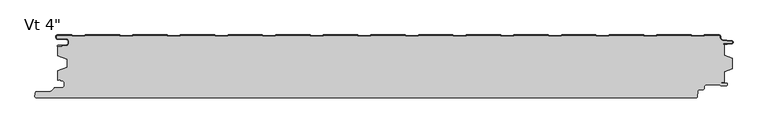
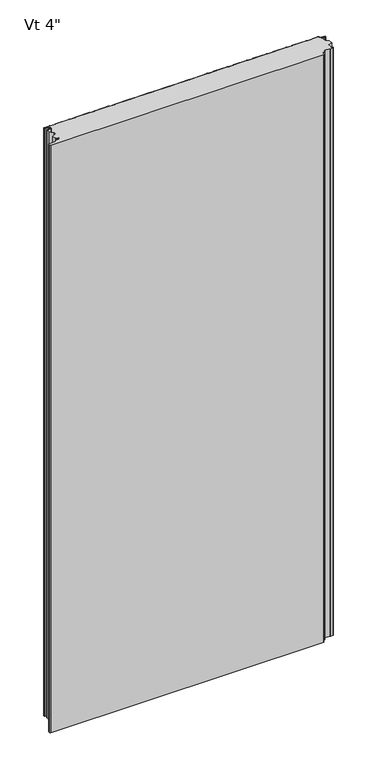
"""IFC4 building model written with IfcOpenShell, lengths in millimetres: plate geometry."""

from ifc_helpers import new_model, si_unit, point, frame, frame_2d, origin, origin_with_axes, place, context, project, spatial, polyline, circle_curve, trimmed, segment, composite_curve, outline, extrude, source, transform, mapped, element, save
from ifc_brep_helpers import plane_surface, cylinder_surface, revolved_surface, advanced_brep


def plate_48e6c5c1(model_context):
    return source(origin(), model_context, "Body", "SolidModel", [
        advanced_brep(
        [(-526.0754696, -73.5045169, 2400.0), (-522.7254697, -76.8545168, 2400.0), (-522.7254697, -81.2545166, 2400.0), (-526.0754696, -84.6045165, 2400.0), (-537.8863818, -84.6045165, 2400.0), (-539.0884633, -85.102435, 2400.0), (-543.8290223, -89.8429939, 2400.0), (-545.6674999, -90.6045163, 2400.0), (-566.6742572, -90.6045163, 2400.0), (-569.3639643, -93.0689835, 2400.0), (-569.7796495, -97.8159721, 2400.0), (-567.22876, -100.6, 2400.0), (487.6519047, -100.6, 2400.0), (489.5344274, -98.8750281, 2400.0), (490.2810225, -90.3438082, 2400.0), (490.8950589, -88.7647769, 2400.0), (493.2848524, -87.5909787, 2400.0), (498.6449659, -87.5909787, 2400.0), (500.4449659, -85.7909787, 2400.0), (500.4449659, -83.500418, 2400.0), (504.4449659, -79.500418, 2400.0), (523.9824407, -79.500418, 2400.0), (525.9423153, -80.3919416, 2400.0), (526.8881383, -81.4769402, 2400.0), (535.7430969, -81.1263694, 2400.0), (535.7400007, -76.9257796, 2400.0), (527.7295248, -76.4370324, 2400.0), (527.790425, -75.4388885, 2400.0), (532.327531, -75.7157133, 2400.0), (532.327531, -58.8948412, 2400.0), (545.5274637, -53.7615374, 2400.0), (545.5274637, -37.6469837, 2400.0), (532.327531, -32.5136753, 2400.0), (532.327531, -15.2947081, 2400.0), (530.7283, -15.4069152, 2400.0), (530.6583089, -14.4093676, 2400.0), (544.1268009, -13.4643757, 2400.0), (544.183689, -10.0073134, 2400.0), (529.6309436, -8.4976379, 2400.0), (525.6580508, -4.0912842, 2400.0), (525.6580508, -2.3999791, 2400.0), (524.2580508, -0.9999791, 2400.0), (501.3726136, -0.9999791, 2400.0), (500.172362, -2.2002307, 2400.0), (480.5369023, -2.2002307, 2400.0), (479.3366715, -1.0, 2400.0), (425.1891835, -1.0, 2400.0), (423.9889528, -2.2002307, 2400.0), (404.353493, -2.2002307, 2400.0), (403.1532623, -1.0, 2400.0), (349.0057743, -1.0, 2400.0), (347.8055436, -2.2002307, 2400.0), (328.1700838, -2.2002307, 2400.0), (326.9698531, -1.0, 2400.0), (272.8223651, -1.0, 2400.0), (271.6221343, -2.2002307, 2400.0), (251.9866746, -2.2002307, 2400.0), (250.7864439, -1.0, 2400.0), (196.6225175, -1.0, 2400.0), (195.4222867, -2.2002307, 2400.0), (175.786827, -2.2002307, 2400.0), (174.5865963, -1.0, 2400.0), (120.4391082, -1.0, 2400.0), (119.2388775, -2.2002307, 2400.0), (99.6034178, -2.2002307, 2400.0), (98.403187, -1.0, 2400.0), (44.255699, -1.0, 2400.0), (43.0554683, -2.2002307, 2400.0), (23.4200086, -2.2002307, 2400.0), (22.2197778, -1.0, 2400.0), (-31.9441486, -1.0, 2400.0), (-33.1443793, -2.2002307, 2400.0), (-52.779839, -2.2002307, 2400.0), (-53.9800698, -1.0, 2400.0), (-108.1275578, -1.0, 2400.0), (-109.3277885, -2.2002307, 2400.0), (-128.9632483, -2.2002307, 2400.0), (-130.163479, -1.0, 2400.0), (-184.310967, -1.0, 2400.0), (-185.5111978, -2.2002307, 2400.0), (-205.1466575, -2.2002307, 2400.0), (-206.3468882, -1.0, 2400.0), (-260.5108146, -1.0, 2400.0), (-261.7110454, -2.2002307, 2400.0), (-281.3465051, -2.2002307, 2400.0), (-282.5467358, -1.0, 2400.0), (-336.6942238, -1.0, 2400.0), (-337.8944546, -2.2002307, 2400.0), (-357.5299143, -2.2002307, 2400.0), (-358.730145, -1.0, 2400.0), (-412.8776331, -1.0, 2400.0), (-414.0778638, -2.2002307, 2400.0), (-433.7133235, -2.2002307, 2400.0), (-434.9135543, -1.0, 2400.0), (-489.0774807, -1.0, 2400.0), (-490.2777114, -2.2002307, 2400.0), (-509.9131711, -2.2002307, 2400.0), (-511.1133915, -1.0000103, 2400.0), (-533.7839771, -1.0000103, 2400.0), (-535.248695, -2.3984828, 2400.0), (-535.248695, -3.9515996, 2400.0), (-533.0386397, -6.1616549, 2400.0), (-519.5094117, -6.1616549, 2400.0), (-515.7894255, -9.881641, 2400.0), (-515.7894255, -13.5282389, 2400.0), (-519.5094219, -17.2482353, 2400.0), (-525.8545399, -17.2482353, 2400.0), (-525.6919341, -18.1704184, 2400.0), (-531.9454632, -19.2730843, 2400.0), (-533.4000002, -18.7244571, 2400.0), (-533.4000002, -33.5050578, 2400.0), (-518.4020469, -39.1301019, 2400.0), (-518.3882813, -51.7686066, 2400.0), (-533.4000002, -57.3928342, 2400.0), (-533.4000002, -72.4748213, 2400.0), (-532.5329867, -72.1060333, 2400.0), (-528.774586, -72.1060333, 2400.0), (-528.774586, -73.5045169, 2400.0), (-526.0754696, -73.5045169, 0.0), (-528.774586, -73.5045169, 0.0), (-528.774586, -72.1060333, 0.0), (-532.5329867, -72.1060333, 0.0), (-533.4000002, -72.4748213, 0.0), (-533.4000002, -57.3928342, 0.0), (-518.4020469, -51.7686066, 0.0), (-518.3882813, -39.1301019, 0.0), (-533.4000002, -33.5050578, 0.0), (-533.4000002, -18.7244571, 0.0), (-531.9454632, -19.2730843, 0.0), (-525.6919341, -18.1704184, 0.0), (-525.8545399, -17.2482353, 0.0), (-519.5094219, -17.2482353, 0.0), (-515.7894255, -13.5282389, 0.0), (-515.7894255, -9.881641, 0.0), (-519.5094117, -6.1616549, 0.0), (-533.0386397, -6.1616549, 0.0), (-535.2486951, -3.9515996, 0.0), (-535.248695, -2.3984828, 0.0), (-533.7839771, -1.0000103, 0.0), (-511.1133915, -1.0000103, 0.0), (-509.9131711, -2.2002307, 0.0), (-490.2777114, -2.2002307, 0.0), (-489.0774807, -1.0, 0.0), (-434.9135543, -1.0, 0.0), (-433.7133235, -2.2002307, 0.0), (-414.0778638, -2.2002307, 0.0), (-412.8776331, -1.0, 0.0), (-358.730145, -1.0, 0.0), (-357.5299143, -2.2002307, 0.0), (-337.8944546, -2.2002307, 0.0), (-336.6942238, -1.0, 0.0), (-282.5467358, -1.0, 0.0), (-281.3465051, -2.2002307, 0.0), (-261.7110454, -2.2002307, 0.0), (-260.5108146, -1.0, 0.0), (-206.3468882, -1.0, 0.0), (-205.1466575, -2.2002307, 0.0), (-185.5111978, -2.2002307, 0.0), (-184.310967, -1.0, 0.0), (-130.163479, -1.0, 0.0), (-128.9632483, -2.2002307, 0.0), (-109.3277885, -2.2002307, 0.0), (-108.1275578, -1.0, 0.0), (-53.9800698, -1.0, 0.0), (-52.779839, -2.2002307, 0.0), (-33.1443793, -2.2002307, 0.0), (-31.9441486, -1.0, 0.0), (22.2197778, -1.0, 0.0), (23.4200086, -2.2002307, 0.0), (43.0554683, -2.2002307, 0.0), (44.255699, -1.0, 0.0), (98.403187, -1.0, 0.0), (99.6034178, -2.2002307, 0.0), (119.2388775, -2.2002307, 0.0), (120.4391082, -1.0, 0.0), (174.5865963, -1.0, 0.0), (175.786827, -2.2002307, 0.0), (195.4222867, -2.2002307, 0.0), (196.6225175, -1.0, 0.0), (250.7864439, -1.0, 0.0), (251.9866746, -2.2002307, 0.0), (271.6221343, -2.2002307, 0.0), (272.8223651, -1.0, 0.0), (326.9698531, -1.0, 0.0), (328.1700838, -2.2002307, 0.0), (347.8055436, -2.2002307, 0.0), (349.0057743, -1.0, 0.0), (403.1532623, -1.0, 0.0), (404.353493, -2.2002307, 0.0), (423.9889528, -2.2002307, 0.0), (425.1891835, -1.0, 0.0), (479.3366715, -1.0, 0.0), (480.5369023, -2.2002307, 0.0), (500.172362, -2.2002307, 0.0), (501.3726136, -0.9999791, 0.0), (524.2580508, -0.9999791, 0.0), (525.6580508, -2.3999791, 0.0), (525.6580508, -4.0912842, 0.0), (529.6309436, -8.4976379, 0.0), (544.183689, -10.0073134, 0.0), (544.1268009, -13.4643757, 0.0), (530.6583089, -14.4093676, 0.0), (530.7283, -15.4069152, 0.0), (532.327531, -15.2947081, 0.0), (532.327531, -32.5136753, 0.0), (545.5274637, -37.6469837, 0.0), (545.5274637, -53.7615374, 0.0), (532.327531, -58.8948412, 0.0), (532.327531, -75.7157133, 0.0), (527.790425, -75.4388885, 0.0), (527.7295248, -76.4370324, 0.0), (535.7400007, -76.9257796, 0.0), (535.7430969, -81.1263694, 0.0), (526.8881383, -81.4769402, 0.0), (525.9423153, -80.3919416, 0.0), (523.9824407, -79.500418, 0.0), (504.4449659, -79.500418, 0.0), (500.4449659, -83.500418, 0.0), (500.4449659, -85.7909787, 0.0), (498.6449659, -87.5909787, 0.0), (493.2848524, -87.5909787, 0.0), (490.8950589, -88.7647769, 0.0), (490.2810225, -90.3438082, 0.0), (489.5344274, -98.8750281, 0.0), (487.6519047, -100.6, 0.0), (-567.22876, -100.6, 0.0), (-569.7796495, -97.8159721, 0.0), (-569.3639643, -93.0689835, 0.0), (-566.6742572, -90.6045163, 0.0), (-545.6674999, -90.6045163, 0.0), (-543.8290223, -89.8429939, 0.0), (-539.0884633, -85.102435, 0.0), (-537.8863818, -84.6045165, 0.0), (-526.0754696, -84.6045165, 0.0), (-522.7254697, -81.2545166, 0.0), (-522.7254697, -76.8545168, 0.0)],
        [
            (0, 1, circle_curve(frame((-526.0754696, -76.8545168, 2400.0), z_axis=(0.0, 0.0, -1.0), x_axis=(-1.0, 0.0, 0.0)), 3.3499999)),
            (1, 2),
            (2, 3, circle_curve(frame((-526.0754696, -81.2545166, 2400.0), z_axis=(0.0, 0.0, -1.0), x_axis=(-1.0, 0.0, 0.0)), 3.3499999)),
            (3, 4),
            (4, 5, circle_curve(frame((-537.8863818, -86.3045165, 2400.0), z_axis=(0.0, 0.0, 1.0), x_axis=(-1.0, 0.0, 0.0)), 1.7)),
            (5, 6),
            (6, 7, circle_curve(frame((-545.6674999, -88.0045163, 2400.0), z_axis=(0.0, 0.0, -1.0), x_axis=(-1.0, 0.0, 0.0)), 2.6)),
            (7, 8),
            (8, 9, circle_curve(frame((-566.6742572, -93.3045163, 2400.0), z_axis=(0.0, 0.0, 1.0), x_axis=(-1.0, 0.0, 0.0)), 2.7)),
            (9, 10),
            (10, 11, circle_curve(frame((-567.22876, -98.0393488, 2400.0), z_axis=(0.0, 0.0, 1.0), x_axis=(-1.0, 0.0, 0.0)), 2.5606512)),
            (11, 12),
            (12, 13, circle_curve(frame((487.6519047, -98.7102824, 2400.0), z_axis=(0.0, 0.0, 1.0), x_axis=(-1.0, 0.0, 0.0)), 1.8897176)),
            (13, 14),
            (14, 15, circle_curve(frame((493.2970771, -90.6077531, 2400.0), z_axis=(0.0, 0.0, -1.0), x_axis=(-1.0, 0.0, 0.0)), 3.027582)),
            (15, 16, circle_curve(frame((493.2751942, -90.5909631, 2400.0), z_axis=(0.0, 0.0, -1.0), x_axis=(-1.0, 0.0, 0.0)), 3.0)),
            (16, 17),
            (17, 18, circle_curve(frame((498.6449659, -85.7909787, 2400.0), z_axis=(0.0, 0.0, 1.0), x_axis=(-1.0, 0.0, 0.0)), 1.8)),
            (18, 19),
            (19, 20, circle_curve(frame((504.4449659, -83.500418, 2400.0), z_axis=(0.0, 0.0, -1.0), x_axis=(-1.0, 0.0, 0.0)), 4.0)),
            (20, 21),
            (21, 22, circle_curve(frame((523.9824407, -82.100418, 2400.0), z_axis=(0.0, 0.0, -1.0), x_axis=(-1.0, 0.0, 0.0)), 2.6)),
            (22, 23),
            (23, 24),
            (24, 25, circle_curve(frame((535.6599479, -79.0261346, 2400.0), z_axis=(0.0, 0.0, 1.0), x_axis=(-1.0, 0.0, 0.0)), 2.10188)),
            (25, 26),
            (26, 27),
            (27, 28),
            (28, 29),
            (29, 30),
            (30, 31),
            (31, 32),
            (32, 33),
            (33, 34),
            (34, 35),
            (35, 36),
            (36, 37, circle_curve(frame((544.0116441, -11.7334815, 2400.0), z_axis=(0.0, 0.0, 1.0), x_axis=(-1.0, 0.0, 0.0)), 1.7347206)),
            (37, 38),
            (38, 39, circle_curve(frame((530.0880508, -4.0912842, 2400.0), z_axis=(0.0, 0.0, -1.0), x_axis=(-1.0, 0.0, 0.0)), 4.43)),
            (39, 40),
            (40, 41, circle_curve(frame((524.2580508, -2.3999791, 2400.0), z_axis=(0.0, 0.0, 1.0), x_axis=(-1.0, 0.0, 0.0)), 1.4)),
            (41, 42),
            (42, 43),
            (43, 44),
            (44, 45),
            (45, 46),
            (46, 47),
            (47, 48),
            (48, 49),
            (49, 50),
            (50, 51),
            (51, 52),
            (52, 53),
            (53, 54),
            (54, 55),
            (55, 56),
            (56, 57),
            (57, 58),
            (58, 59),
            (59, 60),
            (60, 61),
            (61, 62),
            (62, 63),
            (63, 64),
            (64, 65),
            (65, 66),
            (66, 67),
            (67, 68),
            (68, 69),
            (69, 70),
            (70, 71),
            (71, 72),
            (72, 73),
            (73, 74),
            (74, 75),
            (75, 76),
            (76, 77),
            (77, 78),
            (78, 79),
            (79, 80),
            (80, 81),
            (81, 82),
            (82, 83),
            (83, 84),
            (84, 85),
            (85, 86),
            (86, 87),
            (87, 88),
            (88, 89),
            (89, 90),
            (90, 91),
            (91, 92),
            (92, 93),
            (93, 94),
            (94, 95),
            (95, 96),
            (96, 97),
            (97, 98),
            (98, 99, circle_curve(frame((-533.8487245, -2.3984828, 2400.0), z_axis=(0.0, 0.0, 1.0), x_axis=(-1.0, 0.0, 0.0)), 1.3999705)),
            (99, 100),
            (100, 101, circle_curve(frame((-533.0386397, -3.9515996, 2400.0), z_axis=(0.0, 0.0, 1.0), x_axis=(-1.0, 0.0, 0.0)), 2.2100553)),
            (101, 102),
            (102, 103, circle_curve(frame((-519.5094117, -9.881641, 2400.0), z_axis=(0.0, 0.0, -1.0), x_axis=(-1.0, 0.0, 0.0)), 3.7199861)),
            (103, 104),
            (104, 105, circle_curve(frame((-519.5094219, -13.5282389, 2400.0), z_axis=(0.0, 0.0, -1.0), x_axis=(-1.0, 0.0, 0.0)), 3.7199964)),
            (105, 106),
            (106, 107),
            (107, 108),
            (108, 109, circle_curve(frame((-532.2101032, -17.7722363, 2400.0), z_axis=(0.0, 0.0, -1.0), x_axis=(-1.0, 0.0, 0.0)), 1.524001)),
            (109, 110),
            (110, 111),
            (111, 112),
            (112, 113),
            (113, 114),
            (114, 115, circle_curve(frame((-532.5345014, -73.3060323, 2400.0), z_axis=(0.0, 0.0, -1.0), x_axis=(-1.0, 0.0, 0.0)), 1.2)),
            (115, 116),
            (116, 117),
            (117, 0),
            (118, 119),
            (119, 120),
            (120, 121),
            (121, 122, circle_curve(frame((-532.5345014, -73.3060323, 0.0), z_axis=(0.0, 0.0, 1.0), x_axis=(-1.0, 0.0, 0.0)), 1.2)),
            (122, 123),
            (123, 124),
            (124, 125),
            (125, 126),
            (126, 127),
            (127, 128, circle_curve(frame((-532.2101032, -17.7722363, 0.0), z_axis=(0.0, 0.0, 1.0), x_axis=(-1.0, 0.0, 0.0)), 1.524001)),
            (128, 129),
            (129, 130),
            (130, 131),
            (131, 132, circle_curve(frame((-519.5094219, -13.5282389, 0.0), z_axis=(0.0, 0.0, 1.0), x_axis=(-1.0, 0.0, 0.0)), 3.7199964)),
            (132, 133),
            (133, 134, circle_curve(frame((-519.5094117, -9.881641, 0.0), z_axis=(0.0, 0.0, 1.0), x_axis=(-1.0, 0.0, 0.0)), 3.7199861)),
            (134, 135),
            (135, 136, circle_curve(frame((-533.0386397, -3.9515996, 0.0), z_axis=(0.0, 0.0, -1.0), x_axis=(-1.0, 0.0, 0.0)), 2.2100553)),
            (136, 137),
            (137, 138, circle_curve(frame((-533.8487245, -2.3984828, 0.0), z_axis=(0.0, 0.0, -1.0), x_axis=(-1.0, 0.0, 0.0)), 1.3999705)),
            (138, 139),
            (139, 140),
            (140, 141),
            (141, 142),
            (142, 143),
            (143, 144),
            (144, 145),
            (145, 146),
            (146, 147),
            (147, 148),
            (148, 149),
            (149, 150),
            (150, 151),
            (151, 152),
            (152, 153),
            (153, 154),
            (154, 155),
            (155, 156),
            (156, 157),
            (157, 158),
            (158, 159),
            (159, 160),
            (160, 161),
            (161, 162),
            (162, 163),
            (163, 164),
            (164, 165),
            (165, 166),
            (166, 167),
            (167, 168),
            (168, 169),
            (169, 170),
            (170, 171),
            (171, 172),
            (172, 173),
            (173, 174),
            (174, 175),
            (175, 176),
            (176, 177),
            (177, 178),
            (178, 179),
            (179, 180),
            (180, 181),
            (181, 182),
            (182, 183),
            (183, 184),
            (184, 185),
            (185, 186),
            (186, 187),
            (187, 188),
            (188, 189),
            (189, 190),
            (190, 191),
            (191, 192),
            (192, 193),
            (193, 194),
            (194, 195),
            (195, 196, circle_curve(frame((524.2580508, -2.3999791, 0.0), z_axis=(0.0, 0.0, -1.0), x_axis=(-1.0, 0.0, 0.0)), 1.4)),
            (196, 197),
            (197, 198, circle_curve(frame((530.0880508, -4.0912842, 0.0), z_axis=(0.0, 0.0, 1.0), x_axis=(-1.0, 0.0, 0.0)), 4.43)),
            (198, 199),
            (199, 200, circle_curve(frame((544.0116441, -11.7334815, 0.0), z_axis=(0.0, 0.0, -1.0), x_axis=(-1.0, 0.0, 0.0)), 1.7347206)),
            (200, 201),
            (201, 202),
            (202, 203),
            (203, 204),
            (204, 205),
            (205, 206),
            (206, 207),
            (207, 208),
            (208, 209),
            (209, 210),
            (210, 211),
            (211, 212, circle_curve(frame((535.6599479, -79.0261346, 0.0), z_axis=(0.0, 0.0, -1.0), x_axis=(-1.0, 0.0, 0.0)), 2.10188)),
            (212, 213),
            (213, 214),
            (214, 215, circle_curve(frame((523.9824407, -82.100418, 0.0), z_axis=(0.0, 0.0, 1.0), x_axis=(-1.0, 0.0, 0.0)), 2.6)),
            (215, 216),
            (216, 217, circle_curve(frame((504.4449659, -83.500418, 0.0), z_axis=(0.0, 0.0, 1.0), x_axis=(-1.0, 0.0, 0.0)), 4.0)),
            (217, 218),
            (218, 219, circle_curve(frame((498.6449659, -85.7909787, 0.0), z_axis=(0.0, 0.0, -1.0), x_axis=(-1.0, 0.0, 0.0)), 1.8)),
            (219, 220),
            (220, 221, circle_curve(frame((493.2751942, -90.5909631, 0.0), z_axis=(0.0, 0.0, 1.0), x_axis=(-1.0, 0.0, 0.0)), 3.0)),
            (221, 222, circle_curve(frame((493.2970771, -90.6077531, 0.0), z_axis=(0.0, 0.0, 1.0), x_axis=(-1.0, 0.0, 0.0)), 3.027582)),
            (222, 223),
            (223, 224, circle_curve(frame((487.6519047, -98.7102824, 0.0), z_axis=(0.0, 0.0, -1.0), x_axis=(-1.0, 0.0, 0.0)), 1.8897176)),
            (224, 225),
            (225, 226, circle_curve(frame((-567.22876, -98.0393488, 0.0), z_axis=(0.0, 0.0, -1.0), x_axis=(-1.0, 0.0, 0.0)), 2.5606512)),
            (226, 227),
            (227, 228, circle_curve(frame((-566.6742572, -93.3045163, 0.0), z_axis=(0.0, 0.0, -1.0), x_axis=(-1.0, 0.0, 0.0)), 2.7)),
            (228, 229),
            (229, 230, circle_curve(frame((-545.6674999, -88.0045163, 0.0), z_axis=(0.0, 0.0, 1.0), x_axis=(-1.0, 0.0, 0.0)), 2.6)),
            (230, 231),
            (231, 232, circle_curve(frame((-537.8863818, -86.3045165, 0.0), z_axis=(0.0, 0.0, -1.0), x_axis=(-1.0, 0.0, 0.0)), 1.7)),
            (232, 233),
            (233, 234, circle_curve(frame((-526.0754696, -81.2545166, 0.0), z_axis=(0.0, 0.0, 1.0), x_axis=(-1.0, 0.0, 0.0)), 3.3499999)),
            (234, 235),
            (235, 118, circle_curve(frame((-526.0754696, -76.8545168, 0.0), z_axis=(0.0, 0.0, 1.0), x_axis=(-1.0, 0.0, 0.0)), 3.3499999)),
            (28, 208),
            (207, 29),
            (30, 206),
            (205, 31),
            (112, 124),
            (123, 113),
            (122, 114),
            (2, 234),
            (233, 3),
            (1, 235),
            (232, 4),
            (231, 5),
            (6, 230),
            (229, 7),
            (228, 8),
            (227, 9),
            (10, 226),
            (225, 11),
            (224, 12),
            (223, 13),
            (14, 222),
            (221, 15),
            (220, 16),
            (219, 17),
            (18, 218),
            (217, 19),
            (216, 20),
            (215, 21),
            (22, 214),
            (213, 23),
            (212, 24),
            (211, 25),
            (26, 210),
            (209, 27),
            (121, 115),
            (116, 120),
            (119, 117),
            (118, 0),
            (102, 134),
            (133, 103),
            (101, 135),
            (100, 136),
            (99, 137),
            (98, 138),
            (97, 139),
            (96, 140),
            (95, 141),
            (94, 142),
            (93, 143),
            (92, 144),
            (91, 145),
            (90, 146),
            (89, 147),
            (88, 148),
            (87, 149),
            (86, 150),
            (85, 151),
            (84, 152),
            (83, 153),
            (82, 154),
            (81, 155),
            (80, 156),
            (79, 157),
            (78, 158),
            (77, 159),
            (76, 160),
            (75, 161),
            (74, 162),
            (73, 163),
            (72, 164),
            (71, 165),
            (70, 166),
            (69, 167),
            (68, 168),
            (67, 169),
            (66, 170),
            (65, 171),
            (64, 172),
            (63, 173),
            (62, 174),
            (61, 175),
            (60, 176),
            (59, 177),
            (58, 178),
            (57, 179),
            (56, 180),
            (55, 181),
            (54, 182),
            (53, 183),
            (52, 184),
            (51, 185),
            (50, 186),
            (49, 187),
            (48, 188),
            (47, 189),
            (46, 190),
            (45, 191),
            (44, 192),
            (43, 193),
            (42, 194),
            (41, 195),
            (40, 196),
            (39, 197),
            (38, 198),
            (37, 199),
            (36, 200),
            (35, 201),
            (34, 202),
            (33, 203),
            (32, 204),
            (110, 126),
            (125, 111),
            (109, 127),
            (108, 128),
            (107, 129),
            (106, 130),
            (105, 131),
            (104, 132),
        ],
        [
            plane_surface(frame((-0.5362346, -100.6, 2400.0), z_axis=(0.0, 0.0, 1.0), x_axis=(0.0, -1.0, 0.0))),
            plane_surface(frame((-0.5362346, -100.6, 0.0), z_axis=(0.0, 0.0, -1.0), x_axis=(0.0, -1.0, 0.0))),
            plane_surface(frame((532.327531, -58.8948412, 2400.0), z_axis=(1.0, 0.0, 0.0), x_axis=(0.0, 0.0, -1.0))),
            plane_surface(frame((545.5274637, -51.7686066, 2400.0), z_axis=(1.0, 0.0, 0.0), x_axis=(0.0, 0.0, -1.0))),
            plane_surface(frame((545.5274637, -53.7615374, 2400.0), z_axis=(0.36244605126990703, -0.9320047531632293, 0.0), x_axis=(0.0, 0.0, -1.0))),
            plane_surface(frame((-533.4000002, -57.3928342, 2400.0), z_axis=(-0.3511231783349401, 0.9363292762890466, 0.0), x_axis=(0.0, 0.0, -1.0))),
            plane_surface(frame((-533.4000002, -72.4748213, 2400.0), z_axis=(-1.0, 0.0, 0.0), x_axis=(0.0, 0.0, -1.0))),
            revolved_surface(polyline([(-529.4254695, -81.2545166, 0.0), (-529.4254695, -81.2545166, 2400.0)]), (-526.0754696, -81.2545166, 2400.0), (0.0, 0.0, -1.0)),
            plane_surface(frame((-522.7254697, -81.2545166, 2400.0), z_axis=(-1.0, 0.0, 0.0), x_axis=(0.0, 0.0, -1.0))),
            plane_surface(frame((-537.8863818, -84.6045165, 2400.0), z_axis=(0.0, 1.0, 0.0), x_axis=(0.0, 0.0, -1.0))),
            cylinder_surface(frame((-537.8863818, -86.3045165, 2400.0), z_axis=(0.0, 0.0, 1.0), x_axis=(-1.0, 0.0, 0.0)), 1.7),
            revolved_surface(polyline([(-548.2674999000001, -88.0045163, 0.0), (-548.2674999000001, -88.0045163, 2400.0)]), (-545.6674999, -88.0045163, 2400.0), (0.0, 0.0, -1.0)),
            plane_surface(frame((-543.8290223, -89.8429939, 2400.0), z_axis=(-0.7071067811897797, 0.7071067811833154, 0.0), x_axis=(0.0, 0.0, -1.0))),
            plane_surface(frame((-566.6742572, -90.6045163, 2400.0), z_axis=(0.0, 1.0, 0.0), x_axis=(0.0, 0.0, -1.0))),
            cylinder_surface(frame((-566.6742572, -93.3045163, 2400.0), z_axis=(0.0, 0.0, 1.0), x_axis=(-1.0, 0.0, 0.0)), 2.7),
            cylinder_surface(frame((-567.22876, -98.0393488, 2400.0), z_axis=(0.0, 0.0, 1.0), x_axis=(-1.0, 0.0, 0.0)), 2.5606512),
            plane_surface(frame((-569.7796495, -97.8159721, 2400.0), z_axis=(-0.9961878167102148, 0.08723436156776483, 0.0), x_axis=(0.0, 0.0, -1.0))),
            plane_surface(frame((487.6519047, -100.6, 2400.0), z_axis=(0.0, -1.0, 0.0), x_axis=(0.0, 0.0, -1.0))),
            cylinder_surface(frame((487.6519047, -98.7102824, 2400.0), z_axis=(0.0, 0.0, 1.0), x_axis=(-1.0, 0.0, 0.0)), 1.8897176),
            revolved_surface(polyline([(490.26949510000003, -90.6077531, 0.0), (490.26949510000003, -90.6077531, 2400.0)]), (493.2970771, -90.6077531, 2400.0), (0.0, 0.0, -1.0)),
            plane_surface(frame((490.2810225, -90.3438082, 2400.0), z_axis=(0.9961925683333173, -0.08718008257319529, 0.0), x_axis=(0.0, 0.0, -1.0))),
            revolved_surface(polyline([(490.2751942, -90.5909631, 0.0), (490.2751942, -90.5909631, 2400.0)]), (493.2751942, -90.5909631, 2400.0), (0.0, 0.0, -1.0)),
            plane_surface(frame((498.6449659, -87.5909787, 2400.0), z_axis=(0.0, -1.0, 0.0), x_axis=(0.0, 0.0, -1.0))),
            plane_surface(frame((500.4449659, -83.500418, 2400.0), z_axis=(1.0, 0.0, 0.0), x_axis=(0.0, 0.0, -1.0))),
            cylinder_surface(frame((498.6449659, -85.7909787, 2400.0), z_axis=(0.0, 0.0, 1.0), x_axis=(-1.0, 0.0, 0.0)), 1.8),
            revolved_surface(polyline([(500.4449659, -83.500418, 0.0), (500.4449659, -83.500418, 2400.0)]), (504.4449659, -83.500418, 2400.0), (0.0, 0.0, -1.0)),
            plane_surface(frame((523.9824407, -79.500418, 2400.0), z_axis=(0.0, -1.0, 0.0), x_axis=(0.0, 0.0, -1.0))),
            plane_surface(frame((526.8881383, -81.4769402, 2400.0), z_axis=(-0.7537979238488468, -0.6571063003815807, 0.0), x_axis=(0.0, 0.0, -1.0))),
            revolved_surface(polyline([(521.3824407, -82.100418, 0.0), (521.3824407, -82.100418, 2400.0)]), (523.9824407, -82.100418, 2400.0), (0.0, 0.0, -1.0)),
            plane_surface(frame((535.7430969, -81.1263694, 2400.0), z_axis=(0.039559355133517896, -0.9992172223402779, 0.0), x_axis=(0.0, 0.0, -1.0))),
            cylinder_surface(frame((535.6599479, -79.0261346, 2400.0), z_axis=(0.0, 0.0, 1.0), x_axis=(-1.0, 0.0, 0.0)), 2.10188),
            plane_surface(frame((527.790425, -75.4388885, 2400.0), z_axis=(0.9981438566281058, -0.06090025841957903, 0.0), x_axis=(0.0, 0.0, -1.0))),
            plane_surface(frame((527.7295248, -76.4370324, 2400.0), z_axis=(0.06090025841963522, 0.9981438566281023, 0.0), x_axis=(0.0, 0.0, -1.0))),
            plane_surface(frame((532.327531, -75.7157133, 2400.0), z_axis=(-0.06090025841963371, -0.9981438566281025, 0.0), x_axis=(0.0, 0.0, -1.0))),
            revolved_surface(polyline([(-533.7345014, -73.3060323, 0.0), (-533.7345014, -73.3060323, 2400.0)]), (-532.5345014, -73.3060323, 2400.0), (0.0, 0.0, -1.0)),
            plane_surface(frame((-528.774586, -73.5045169, 2400.0), z_axis=(-1.0, 0.0, 0.0), x_axis=(0.0, 0.0, -1.0))),
            plane_surface(frame((-528.774586, -72.1060333, 2400.0), z_axis=(0.0, -1.0, 0.0), x_axis=(0.0, 0.0, -1.0))),
            plane_surface(frame((-526.0754696, -73.5045169, 2400.0), z_axis=(0.0, -1.0, 0.0), x_axis=(0.0, 0.0, -1.0))),
            revolved_surface(polyline([(-529.4254695, -76.8545168, 0.0), (-529.4254695, -76.8545168, 2400.0)]), (-526.0754696, -76.8545168, 2400.0), (0.0, 0.0, -1.0)),
            revolved_surface(polyline([(-523.2293978, -9.881641, 0.0), (-523.2293978, -9.881641, 2400.0)]), (-519.5094117, -9.881641, 2400.0), (0.0, 0.0, -1.0)),
            plane_surface(frame((-519.5094117, -6.1616549, 2400.0), z_axis=(0.0, -1.0, 0.0), x_axis=(0.0, 0.0, -1.0))),
            cylinder_surface(frame((-533.0386397, -3.9515996, 2400.0), z_axis=(0.0, 0.0, 1.0), x_axis=(-1.0, 0.0, 0.0)), 2.2100553),
            plane_surface(frame((-535.248695, -3.9515996, 2400.0), z_axis=(-1.0, 0.0, 0.0), x_axis=(0.0, 0.0, -1.0))),
            cylinder_surface(frame((-533.8487245, -2.3984828, 2400.0), z_axis=(0.0, 0.0, 1.0), x_axis=(-1.0, 0.0, 0.0)), 1.3999705),
            plane_surface(frame((-533.7839771, -1.0000103, 2400.0), z_axis=(0.0, 1.0, 0.0), x_axis=(0.0, 0.0, -1.0))),
            plane_surface(frame((-511.1133915, -1.0000103, 2400.0), z_axis=(0.7071067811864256, 0.7071067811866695, 0.0), x_axis=(0.0, 0.0, -1.0))),
            plane_surface(frame((-500.0954413, -2.2002307, 2400.0), z_axis=(0.0, 1.0, 0.0), x_axis=(0.0, 0.0, -1.0))),
            plane_surface(frame((-490.2777114, -2.2002307, 2400.0), z_axis=(-0.7071067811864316, 0.7071067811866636, 0.0), x_axis=(0.0, 0.0, -1.0))),
            plane_surface(frame((-489.0774807, -1.0, 2400.0), z_axis=(0.0, 1.0, 0.0), x_axis=(0.0, 0.0, -1.0))),
            plane_surface(frame((-434.9135543, -1.0, 2400.0), z_axis=(0.7071067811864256, 0.7071067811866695, 0.0), x_axis=(0.0, 0.0, -1.0))),
            plane_surface(frame((-423.8955937, -2.2002307, 2400.0), z_axis=(0.0, 1.0, 0.0), x_axis=(0.0, 0.0, -1.0))),
            plane_surface(frame((-414.0778638, -2.2002307, 2400.0), z_axis=(-0.7071067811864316, 0.7071067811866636, 0.0), x_axis=(0.0, 0.0, -1.0))),
            plane_surface(frame((-412.8776331, -1.0, 2400.0), z_axis=(0.0, 1.0, 0.0), x_axis=(0.0, 0.0, -1.0))),
            plane_surface(frame((-358.730145, -1.0, 2400.0), z_axis=(0.7071067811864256, 0.7071067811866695, 0.0), x_axis=(0.0, 0.0, -1.0))),
            plane_surface(frame((-347.7121844, -2.2002307, 2400.0), z_axis=(0.0, 1.0, 0.0), x_axis=(0.0, 0.0, -1.0))),
            plane_surface(frame((-337.8944546, -2.2002307, 2400.0), z_axis=(-0.7071067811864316, 0.7071067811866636, 0.0), x_axis=(0.0, 0.0, -1.0))),
            plane_surface(frame((-336.6942238, -1.0, 2400.0), z_axis=(0.0, 1.0, 0.0), x_axis=(0.0, 0.0, -1.0))),
            plane_surface(frame((-282.5467358, -1.0, 2400.0), z_axis=(0.7071067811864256, 0.7071067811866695, 0.0), x_axis=(0.0, 0.0, -1.0))),
            plane_surface(frame((-271.5287752, -2.2002307, 2400.0), z_axis=(0.0, 1.0, 0.0), x_axis=(0.0, 0.0, -1.0))),
            plane_surface(frame((-261.7110454, -2.2002307, 2400.0), z_axis=(-0.7071067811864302, 0.7071067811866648, 0.0), x_axis=(0.0, 0.0, -1.0))),
            plane_surface(frame((-260.5108146, -1.0, 2400.0), z_axis=(0.0, 1.0, 0.0), x_axis=(0.0, 0.0, -1.0))),
            plane_surface(frame((-206.3468882, -1.0, 2400.0), z_axis=(0.7071067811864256, 0.7071067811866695, 0.0), x_axis=(0.0, 0.0, -1.0))),
            plane_surface(frame((-195.3289276, -2.2002307, 2400.0), z_axis=(0.0, 1.0, 0.0), x_axis=(0.0, 0.0, -1.0))),
            plane_surface(frame((-185.5111978, -2.2002307, 2400.0), z_axis=(-0.7071067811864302, 0.7071067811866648, 0.0), x_axis=(0.0, 0.0, -1.0))),
            plane_surface(frame((-184.310967, -1.0, 2400.0), z_axis=(0.0, 1.0, 0.0), x_axis=(0.0, 0.0, -1.0))),
            plane_surface(frame((-130.163479, -1.0, 2400.0), z_axis=(0.7071067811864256, 0.7071067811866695, 0.0), x_axis=(0.0, 0.0, -1.0))),
            plane_surface(frame((-119.1455184, -2.2002307, 2400.0), z_axis=(0.0, 1.0, 0.0), x_axis=(0.0, 0.0, -1.0))),
            plane_surface(frame((-109.3277885, -2.2002307, 2400.0), z_axis=(-0.7071067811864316, 0.7071067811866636, 0.0), x_axis=(0.0, 0.0, -1.0))),
            plane_surface(frame((-108.1275578, -1.0, 2400.0), z_axis=(0.0, 1.0, 0.0), x_axis=(0.0, 0.0, -1.0))),
            plane_surface(frame((-53.9800698, -1.0, 2400.0), z_axis=(0.7071067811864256, 0.7071067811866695, 0.0), x_axis=(0.0, 0.0, -1.0))),
            plane_surface(frame((-42.9621092, -2.2002307, 2400.0), z_axis=(0.0, 1.0, 0.0), x_axis=(0.0, 0.0, -1.0))),
            plane_surface(frame((-33.1443793, -2.2002307, 2400.0), z_axis=(-0.707106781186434, 0.707106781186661, 0.0), x_axis=(0.0, 0.0, -1.0))),
            plane_surface(frame((-31.9441486, -1.0, 2400.0), z_axis=(0.0, 1.0, 0.0), x_axis=(0.0, 0.0, -1.0))),
            plane_surface(frame((22.2197778, -1.0, 2400.0), z_axis=(0.7071067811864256, 0.7071067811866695, 0.0), x_axis=(0.0, 0.0, -1.0))),
            plane_surface(frame((33.2377384, -2.2002307, 2400.0), z_axis=(0.0, 1.0, 0.0), x_axis=(0.0, 0.0, -1.0))),
            plane_surface(frame((43.0554683, -2.2002307, 2400.0), z_axis=(-0.7071067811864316, 0.7071067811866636, 0.0), x_axis=(0.0, 0.0, -1.0))),
            plane_surface(frame((44.255699, -1.0, 2400.0), z_axis=(0.0, 1.0, 0.0), x_axis=(0.0, 0.0, -1.0))),
            plane_surface(frame((98.403187, -1.0, 2400.0), z_axis=(0.7071067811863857, 0.7071067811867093, 0.0), x_axis=(0.0, 0.0, -1.0))),
            plane_surface(frame((109.4211476, -2.2002307, 2400.0), z_axis=(0.0, 1.0, 0.0), x_axis=(0.0, 0.0, -1.0))),
            plane_surface(frame((119.2388775, -2.2002307, 2400.0), z_axis=(-0.7071067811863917, 0.7071067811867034, 0.0), x_axis=(0.0, 0.0, -1.0))),
            plane_surface(frame((120.4391082, -1.0, 2400.0), z_axis=(0.0, 1.0, 0.0), x_axis=(0.0, 0.0, -1.0))),
            plane_surface(frame((174.5865963, -1.0, 2400.0), z_axis=(0.7071067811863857, 0.7071067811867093, 0.0), x_axis=(0.0, 0.0, -1.0))),
            plane_surface(frame((185.6045569, -2.2002307, 2400.0), z_axis=(0.0, 1.0, 0.0), x_axis=(0.0, 0.0, -1.0))),
            plane_surface(frame((195.4222867, -2.2002307, 2400.0), z_axis=(-0.7071067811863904, 0.7071067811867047, 0.0), x_axis=(0.0, 0.0, -1.0))),
            plane_surface(frame((196.6225175, -1.0, 2400.0), z_axis=(0.0, 1.0, 0.0), x_axis=(0.0, 0.0, -1.0))),
            plane_surface(frame((250.7864439, -1.0, 2400.0), z_axis=(0.7071067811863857, 0.7071067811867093, 0.0), x_axis=(0.0, 0.0, -1.0))),
            plane_surface(frame((261.8044045, -2.2002307, 2400.0), z_axis=(0.0, 1.0, 0.0), x_axis=(0.0, 0.0, -1.0))),
            plane_surface(frame((271.6221343, -2.2002307, 2400.0), z_axis=(-0.7071067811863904, 0.7071067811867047, 0.0), x_axis=(0.0, 0.0, -1.0))),
            plane_surface(frame((272.8223651, -1.0, 2400.0), z_axis=(0.0, 1.0, 0.0), x_axis=(0.0, 0.0, -1.0))),
            plane_surface(frame((326.9698531, -1.0, 2400.0), z_axis=(0.7071067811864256, 0.7071067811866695, 0.0), x_axis=(0.0, 0.0, -1.0))),
            plane_surface(frame((337.9878137, -2.2002307, 2400.0), z_axis=(0.0, 1.0, 0.0), x_axis=(0.0, 0.0, -1.0))),
            plane_surface(frame((347.8055436, -2.2002307, 2400.0), z_axis=(-0.7071067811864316, 0.7071067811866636, 0.0), x_axis=(0.0, 0.0, -1.0))),
            plane_surface(frame((349.0057743, -1.0, 2400.0), z_axis=(0.0, 1.0, 0.0), x_axis=(0.0, 0.0, -1.0))),
            plane_surface(frame((403.1532623, -1.0, 2400.0), z_axis=(0.7071067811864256, 0.7071067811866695, 0.0), x_axis=(0.0, 0.0, -1.0))),
            plane_surface(frame((414.1712229, -2.2002307, 2400.0), z_axis=(0.0, 1.0, 0.0), x_axis=(0.0, 0.0, -1.0))),
            plane_surface(frame((423.9889528, -2.2002307, 2400.0), z_axis=(-0.7071067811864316, 0.7071067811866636, 0.0), x_axis=(0.0, 0.0, -1.0))),
            plane_surface(frame((425.1891835, -1.0, 2400.0), z_axis=(0.0, 1.0, 0.0), x_axis=(0.0, 0.0, -1.0))),
            plane_surface(frame((479.3366715, -1.0, 2400.0), z_axis=(0.7071067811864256, 0.7071067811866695, 0.0), x_axis=(0.0, 0.0, -1.0))),
            plane_surface(frame((490.3546321, -2.2002307, 2400.0), z_axis=(0.0, 1.0, 0.0), x_axis=(0.0, 0.0, -1.0))),
            plane_surface(frame((500.172362, -2.2002307, 2400.0), z_axis=(-0.7071067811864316, 0.7071067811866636, 0.0), x_axis=(0.0, 0.0, -1.0))),
            plane_surface(frame((501.3726136, -0.9999791, 2400.0), z_axis=(0.0, 1.0, 0.0), x_axis=(0.0, 0.0, -1.0))),
            cylinder_surface(frame((524.2580508, -2.3999791, 2400.0), z_axis=(0.0, 0.0, 1.0), x_axis=(-1.0, 0.0, 0.0)), 1.4),
            plane_surface(frame((525.6580508, -2.3999791, 2400.0), z_axis=(1.0, 0.0, 0.0), x_axis=(0.0, 0.0, -1.0))),
            revolved_surface(polyline([(525.6580508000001, -4.0912842, 0.0), (525.6580508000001, -4.0912842, 2400.0)]), (530.0880508, -4.0912842, 2400.0), (0.0, 0.0, -1.0)),
            plane_surface(frame((529.6309436, -8.4976379, 2400.0), z_axis=(0.10318446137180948, 0.9946622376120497, 0.0), x_axis=(0.0, 0.0, -1.0))),
            cylinder_surface(frame((544.0116441, -11.7334815, 2400.0), z_axis=(0.0, 0.0, 1.0), x_axis=(-1.0, 0.0, 0.0)), 1.7347206),
            plane_surface(frame((544.1268009, -13.4643757, 2400.0), z_axis=(0.06999109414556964, -0.997547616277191, 0.0), x_axis=(0.0, 0.0, -1.0))),
            plane_surface(frame((530.6583089, -14.4093676, 2400.0), z_axis=(0.9975476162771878, 0.06999109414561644, 0.0), x_axis=(0.0, 0.0, -1.0))),
            plane_surface(frame((530.7283, -15.4069152, 2400.0), z_axis=(-0.06999109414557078, 0.997547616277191, 0.0), x_axis=(0.0, 0.0, -1.0))),
            plane_surface(frame((532.327531, -15.2947081, 2400.0), z_axis=(1.0, 0.0, 0.0), x_axis=(0.0, 0.0, -1.0))),
            plane_surface(frame((532.327531, -32.5136753, 2400.0), z_axis=(0.3624463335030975, 0.9320046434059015, 0.0), x_axis=(0.0, 0.0, -1.0))),
            plane_surface(frame((-518.4020469, -39.1301019, 2400.0), z_axis=(-0.35116785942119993, -0.9363125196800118, 0.0), x_axis=(0.0, 0.0, -1.0))),
            plane_surface(frame((-533.4000002, -33.5050578, 2400.0), z_axis=(-1.0, 0.0, 0.0), x_axis=(0.0, 0.0, -1.0))),
            revolved_surface(polyline([(-533.7341042, -17.7722363, 0.0), (-533.7341042, -17.7722363, 2400.0)]), (-532.2101032, -17.7722363, 2400.0), (0.0, 0.0, -1.0)),
            plane_surface(frame((-531.9454632, -19.2730843, 2400.0), z_axis=(-0.17364817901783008, 0.9848077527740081, 0.0), x_axis=(0.0, 0.0, -1.0))),
            plane_surface(frame((-525.6919341, -18.1704184, 2400.0), z_axis=(-0.9848077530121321, -0.17364817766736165, 0.0), x_axis=(0.0, 0.0, -1.0))),
            plane_surface(frame((-525.8545399, -17.2482353, 2400.0), z_axis=(0.0, 1.0, 0.0), x_axis=(0.0, 0.0, -1.0))),
            revolved_surface(polyline([(-523.2294183, -13.5282389, 0.0), (-523.2294183, -13.5282389, 2400.0)]), (-519.5094219, -13.5282389, 2400.0), (0.0, 0.0, -1.0)),
            plane_surface(frame((-515.7894255, -13.5282389, 2400.0), z_axis=(-1.0, 0.0, 0.0), x_axis=(0.0, 0.0, -1.0))),
            plane_surface(frame((-518.3882813, -51.7686066, 2400.0), z_axis=(-1.0, 0.0, 0.0), x_axis=(0.0, 0.0, -1.0))),
        ],
        [
            (0, [[1, 2, 3, 4, 5, 6, 7, 8, 9, 10, 11, 12, 13, 14, 15, 16, 17, 18, 19, 20, 21, 22, 23, 24, 25, 26, 27, 28, 29, 30, 31, 32, 33, 34, 35, 36, 37, 38, 39, 40, 41, 42, 43, 44, 45, 46, 47, 48, 49, 50, 51, 52, 53, 54, 55, 56, 57, 58, 59, 60, 61, 62, 63, 64, 65, 66, 67, 68, 69, 70, 71, 72, 73, 74, 75, 76, 77, 78, 79, 80, 81, 82, 83, 84, 85, 86, 87, 88, 89, 90, 91, 92, 93, 94, 95, 96, 97, 98, 99, 100, 101, 102, 103, 104, 105, 106, 107, 108, 109, 110, 111, 112, 113, 114, 115, 116, 117, 118]]),
            (1, [[119, 120, 121, 122, 123, 124, 125, 126, 127, 128, 129, 130, 131, 132, 133, 134, 135, 136, 137, 138, 139, 140, 141, 142, 143, 144, 145, 146, 147, 148, 149, 150, 151, 152, 153, 154, 155, 156, 157, 158, 159, 160, 161, 162, 163, 164, 165, 166, 167, 168, 169, 170, 171, 172, 173, 174, 175, 176, 177, 178, 179, 180, 181, 182, 183, 184, 185, 186, 187, 188, 189, 190, 191, 192, 193, 194, 195, 196, 197, 198, 199, 200, 201, 202, 203, 204, 205, 206, 207, 208, 209, 210, 211, 212, 213, 214, 215, 216, 217, 218, 219, 220, 221, 222, 223, 224, 225, 226, 227, 228, 229, 230, 231, 232, 233, 234, 235, 236]]),
            (2, [[237, -208, 238, -29]]),
            (3, [[239, -206, 240, -31]]),
            (4, [[-238, -207, -239, -30]]),
            (5, [[241, -124, 242, -113]]),
            (6, [[-242, -123, 243, -114]]),
            (7, [[244, -234, 245, -3]]),
            (8, [[246, -235, -244, -2]]),
            (9, [[-245, -233, 247, -4]]),
            (10, [[-247, -232, 248, -5]]),
            (11, [[249, -230, 250, -7]]),
            (12, [[-248, -231, -249, -6]]),
            (13, [[-250, -229, 251, -8]]),
            (14, [[-251, -228, 252, -9]]),
            (15, [[253, -226, 254, -11]]),
            (16, [[-252, -227, -253, -10]]),
            (17, [[-254, -225, 255, -12]]),
            (18, [[-255, -224, 256, -13]]),
            (19, [[257, -222, 258, -15]]),
            (20, [[-256, -223, -257, -14]]),
            (21, [[-258, -221, 259, -16]]),
            (22, [[-259, -220, 260, -17]]),
            (23, [[261, -218, 262, -19]]),
            (24, [[-260, -219, -261, -18]]),
            (25, [[-262, -217, 263, -20]]),
            (26, [[-263, -216, 264, -21]]),
            (27, [[265, -214, 266, -23]]),
            (28, [[-264, -215, -265, -22]]),
            (29, [[-266, -213, 267, -24]]),
            (30, [[-267, -212, 268, -25]]),
            (31, [[269, -210, 270, -27]]),
            (32, [[-268, -211, -269, -26]]),
            (33, [[-270, -209, -237, -28]]),
            (34, [[-243, -122, 271, -115]]),
            (35, [[272, -120, 273, -117]]),
            (36, [[-271, -121, -272, -116]]),
            (37, [[-273, -119, 274, -118]]),
            (38, [[-274, -236, -246, -1]]),
            (39, [[275, -134, 276, -103]]),
            (40, [[277, -135, -275, -102]]),
            (41, [[278, -136, -277, -101]]),
            (42, [[279, -137, -278, -100]]),
            (43, [[280, -138, -279, -99]]),
            (44, [[281, -139, -280, -98]]),
            (45, [[282, -140, -281, -97]]),
            (46, [[283, -141, -282, -96]]),
            (47, [[284, -142, -283, -95]]),
            (48, [[285, -143, -284, -94]]),
            (49, [[286, -144, -285, -93]]),
            (50, [[287, -145, -286, -92]]),
            (51, [[288, -146, -287, -91]]),
            (52, [[289, -147, -288, -90]]),
            (53, [[290, -148, -289, -89]]),
            (54, [[291, -149, -290, -88]]),
            (55, [[292, -150, -291, -87]]),
            (56, [[293, -151, -292, -86]]),
            (57, [[294, -152, -293, -85]]),
            (58, [[295, -153, -294, -84]]),
            (59, [[296, -154, -295, -83]]),
            (60, [[297, -155, -296, -82]]),
            (61, [[298, -156, -297, -81]]),
            (62, [[299, -157, -298, -80]]),
            (63, [[300, -158, -299, -79]]),
            (64, [[301, -159, -300, -78]]),
            (65, [[302, -160, -301, -77]]),
            (66, [[303, -161, -302, -76]]),
            (67, [[304, -162, -303, -75]]),
            (68, [[305, -163, -304, -74]]),
            (69, [[306, -164, -305, -73]]),
            (70, [[307, -165, -306, -72]]),
            (71, [[308, -166, -307, -71]]),
            (72, [[309, -167, -308, -70]]),
            (73, [[310, -168, -309, -69]]),
            (74, [[311, -169, -310, -68]]),
            (75, [[312, -170, -311, -67]]),
            (76, [[313, -171, -312, -66]]),
            (77, [[314, -172, -313, -65]]),
            (78, [[315, -173, -314, -64]]),
            (79, [[316, -174, -315, -63]]),
            (80, [[317, -175, -316, -62]]),
            (81, [[318, -176, -317, -61]]),
            (82, [[319, -177, -318, -60]]),
            (83, [[320, -178, -319, -59]]),
            (84, [[321, -179, -320, -58]]),
            (85, [[322, -180, -321, -57]]),
            (86, [[323, -181, -322, -56]]),
            (87, [[324, -182, -323, -55]]),
            (88, [[325, -183, -324, -54]]),
            (89, [[326, -184, -325, -53]]),
            (90, [[327, -185, -326, -52]]),
            (91, [[328, -186, -327, -51]]),
            (92, [[329, -187, -328, -50]]),
            (93, [[330, -188, -329, -49]]),
            (94, [[331, -189, -330, -48]]),
            (95, [[332, -190, -331, -47]]),
            (96, [[333, -191, -332, -46]]),
            (97, [[334, -192, -333, -45]]),
            (98, [[335, -193, -334, -44]]),
            (99, [[336, -194, -335, -43]]),
            (100, [[337, -195, -336, -42]]),
            (101, [[338, -196, -337, -41]]),
            (102, [[339, -197, -338, -40]]),
            (103, [[340, -198, -339, -39]]),
            (104, [[341, -199, -340, -38]]),
            (105, [[342, -200, -341, -37]]),
            (106, [[343, -201, -342, -36]]),
            (107, [[344, -202, -343, -35]]),
            (108, [[345, -203, -344, -34]]),
            (109, [[346, -204, -345, -33]]),
            (110, [[-240, -205, -346, -32]]),
            (111, [[347, -126, 348, -111]]),
            (112, [[349, -127, -347, -110]]),
            (113, [[350, -128, -349, -109]]),
            (114, [[351, -129, -350, -108]]),
            (115, [[352, -130, -351, -107]]),
            (116, [[353, -131, -352, -106]]),
            (117, [[354, -132, -353, -105]]),
            (118, [[-276, -133, -354, -104]]),
            (119, [[-348, -125, -241, -112]]),
        ],
    ),
        extrude(outline(composite_curve([segment(polyline([(-533.7639404, -1.03e-05), (-510.699178, -1.03e-05), (-509.4989576, -1.2002307), (-490.691925, -1.2002307), (-489.4916942, 0.0), (-434.4993407, 0.0), (-433.29911, -1.2002307), (-414.4920774, -1.2002307), (-413.2918466, 0.0), (-358.3159315, 0.0), (-357.1157007, -1.2002307), (-338.3086681, -1.2002307), (-337.1084374, 0.0), (-282.1325223, 0.0), (-280.9322915, -1.2002307), (-262.1252589, -1.2002307), (-260.9250282, 0.0), (-205.9326747, 0.0), (-204.7324439, -1.2002307), (-185.9254113, -1.2002307), (-184.7251806, 0.0), (-129.7492654, 0.0), (-128.5490347, -1.2002307), (-109.7420021, -1.2002307), (-108.5417714, 0.0), (-53.5658562, 0.0), (-52.3656255, -1.2002307), (-33.5585929, -1.2002307), (-32.3583621, 0.0), (22.6339914, 0.0), (23.8342221, -1.2002307), (42.6412547, -1.2002307), (43.8414855, 0.0), (98.8174006, 0.0), (100.0176313, -1.2002307), (118.8246639, -1.2002307), (120.0248947, 0.0), (175.0008098, 0.0), (176.2010406, -1.2002307), (195.0080732, -1.2002307), (196.2083039, 0.0), (251.2006574, 0.0), (252.4008882, -1.2002307), (271.2079208, -1.2002307), (272.4081515, 0.0), (327.3840666, 0.0), (328.5842974, -1.2002307), (347.39133, -1.2002307), (348.5915607, 0.0), (403.5674759, 0.0), (404.7677066, -1.2002307), (423.5747392, -1.2002307), (424.77497, 0.0), (479.7508851, 0.0), (480.9511158, -1.2002307), (499.7581484, -1.2002307), (500.9584001, 2.09e-05), (524.2580508, 2.09e-05)]), True, "CONTINUOUS"), segment(trimmed(circle_curve(frame_2d((524.2580508, -2.3999791)), 2.4), [point((524.2580508, 2.09e-05))], [point((526.6580508, -2.3999791))], False, "CARTESIAN"), True, "CONTINUOUS"), segment(polyline([(526.6580508, -2.3999791), (526.6580508, -4.0912842)]), True, "CONTINUOUS"), segment(trimmed(circle_curve(frame_2d((530.0880508, -4.0912842)), 3.43), [point((526.6580508, -4.0912842))], [point((529.7341281, -7.5029757))], True, "CARTESIAN"), True, "CONTINUOUS"), segment(polyline([(529.7341281, -7.5029757), (544.2850973, -9.0124669)]), True, "CONTINUOUS"), segment(trimmed(circle_curve(frame_2d((544.0116441, -11.7334815)), 2.7347206), [point((544.2850973, -9.0124669))], [point((544.1951928, -14.4620355))], False, "CARTESIAN"), True, "CONTINUOUS"), segment(polyline([(544.1951928, -14.4620355), (530.7283, -15.4069152), (530.6583089, -14.4093676), (544.1268009, -13.4643757)]), True, "CONTINUOUS"), segment(trimmed(circle_curve(frame_2d((544.0116441, -11.7334815)), 1.7347206), [point((544.1268009, -13.4643757))], [point((544.183689, -10.0073134))], True, "CARTESIAN"), True, "CONTINUOUS"), segment(polyline([(544.183689, -10.0073134), (529.6309436, -8.4976379)]), True, "CONTINUOUS"), segment(trimmed(circle_curve(frame_2d((530.0880508, -4.0912842)), 4.43), [point((529.6309436, -8.4976379))], [point((525.6580508, -4.0912842))], False, "CARTESIAN"), True, "CONTINUOUS"), segment(polyline([(525.6580508, -4.0912842), (525.6580508, -2.3999791)]), True, "CONTINUOUS"), segment(trimmed(circle_curve(frame_2d((524.2580508, -2.3999791)), 1.4), [point((525.6580508, -2.3999791))], [point((524.2580508, -0.9999791))], True, "CARTESIAN"), True, "CONTINUOUS"), segment(polyline([(524.2580508, -0.9999791), (501.3726136, -0.9999791), (500.172362, -2.2002307), (480.5369023, -2.2002307), (479.3366715, -1.0), (425.1891835, -1.0), (423.9889528, -2.2002307), (404.353493, -2.2002307), (403.1532623, -1.0), (349.0057743, -1.0), (347.8055436, -2.2002307), (328.1700838, -2.2002307), (326.9698531, -1.0), (272.8223651, -1.0), (271.6221343, -2.2002307), (251.9866746, -2.2002307), (250.7864439, -1.0), (196.6225175, -1.0), (195.4222867, -2.2002307), (175.786827, -2.2002307), (174.5865963, -1.0), (120.4391082, -1.0), (119.2388775, -2.2002307), (99.6034178, -2.2002307), (98.403187, -1.0), (44.255699, -1.0), (43.0554683, -2.2002307), (23.4200086, -2.2002307), (22.2197778, -1.0), (-31.9441486, -1.0), (-33.1443793, -2.2002307), (-52.779839, -2.2002307), (-53.9800698, -1.0), (-108.1275578, -1.0), (-109.3277885, -2.2002307), (-128.9632483, -2.2002307), (-130.163479, -1.0), (-184.310967, -1.0), (-185.5111978, -2.2002307), (-205.1466575, -2.2002307), (-206.3468882, -1.0), (-260.5108146, -1.0), (-261.7110454, -2.2002307), (-281.3465051, -2.2002307), (-282.5467358, -1.0), (-336.6942238, -1.0), (-337.8944546, -2.2002307), (-357.5299143, -2.2002307), (-358.730145, -1.0), (-412.8776331, -1.0), (-414.0778638, -2.2002307), (-433.7133235, -2.2002307), (-434.9135543, -1.0), (-489.0774807, -1.0), (-490.2777114, -2.2002307), (-509.9131711, -2.2002307), (-511.1133915, -1.0000103), (-533.7839771, -1.0000103)]), True, "CONTINUOUS"), segment(trimmed(circle_curve(frame_2d((-533.8487245, -2.3984828)), 1.3999705), [point((-533.7839771, -1.0000103))], [point((-535.248695, -2.3984828))], True, "CARTESIAN"), True, "CONTINUOUS"), segment(polyline([(-535.248695, -2.3984828), (-535.248695, -3.9515996)]), True, "CONTINUOUS"), segment(trimmed(circle_curve(frame_2d((-533.0386397, -3.9515996)), 2.2100553), [point((-535.248695, -3.9515996))], [point((-533.0386397, -6.1616549))], True, "CARTESIAN"), True, "CONTINUOUS"), segment(polyline([(-533.0386397, -6.1616549), (-519.5094117, -6.1616549)]), True, "CONTINUOUS"), segment(trimmed(circle_curve(frame_2d((-519.5094117, -9.881641)), 3.7199861), [point((-519.5094117, -6.1616549))], [point((-515.7894255, -9.881641))], False, "CARTESIAN"), True, "CONTINUOUS"), segment(polyline([(-515.7894255, -9.881641), (-515.7894255, -13.5282389)]), True, "CONTINUOUS"), segment(trimmed(circle_curve(frame_2d((-519.5094219, -13.5282389)), 3.7199964), [point((-515.7894255, -13.5282389))], [point((-519.5094219, -17.2482353))], False, "CARTESIAN"), True, "CONTINUOUS"), segment(polyline([(-519.5094219, -17.2482353), (-525.8545399, -17.2482353), (-525.6919341, -18.1704184), (-531.9454632, -19.2730843)]), True, "CONTINUOUS"), segment(trimmed(circle_curve(frame_2d((-532.2101032, -17.7722363)), 1.524001), [point((-531.9454632, -19.2730843))], [point((-532.2101032, -16.2482353))], False, "CARTESIAN"), True, "CONTINUOUS"), segment(polyline([(-532.2101032, -16.2482353), (-519.5094219, -16.2482353)]), True, "CONTINUOUS"), segment(trimmed(circle_curve(frame_2d((-519.5094219, -13.5282389)), 2.7199964), [point((-519.5094219, -16.2482353))], [point((-516.7894255, -13.5282389))], True, "CARTESIAN"), True, "CONTINUOUS"), segment(polyline([(-516.7894255, -13.5282389), (-516.7894255, -9.881641)]), True, "CONTINUOUS"), segment(trimmed(circle_curve(frame_2d((-519.5094117, -9.881641)), 2.7199861), [point((-516.7894255, -9.881641))], [point((-519.5094117, -7.1616549))], True, "CARTESIAN"), True, "CONTINUOUS"), segment(polyline([(-519.5094117, -7.1616549), (-533.0386397, -7.1616549)]), True, "CONTINUOUS"), segment(trimmed(circle_curve(frame_2d((-533.0386397, -3.9515996)), 3.2100553), [point((-533.0386397, -7.1616549))], [point((-536.2486951, -3.9515996))], False, "CARTESIAN"), True, "CONTINUOUS"), segment(polyline([(-536.2486951, -3.9515996), (-536.248695, -2.3984828)]), True, "CONTINUOUS"), segment(trimmed(circle_curve(frame_2d((-533.8487245, -2.3984828)), 2.3999705), [point((-536.248695, -2.3984828))], [point((-533.7639404, -1.03e-05))], False, "CARTESIAN"), True, "CONTINUOUS")], self_intersect=False)), origin_with_axes(), (0.0, 0.0, 1.0), 2400.0),
    ])


if __name__ == "__main__":
    model = new_model("IFC4")
    model_context = context("Model", 3, world=origin())
    ifc_project = project(units=[si_unit("LENGTHUNIT", "METRE", prefix="MILLI")], contexts=[model_context])
    site = spatial("IfcSite", under=ifc_project)
    building = spatial("IfcBuilding", under=site)
    placement = place(None, origin())
    plate_shape = plate_48e6c5c1(model_context)
    element("IfcPlate", 1, ObjectType="KIP-42-KRHF-R19-CP-Vt-FL_SL : Vt 4\"", at=placement, inside=building, context=model_context, shape_type="MappedRepresentation", body=[
        mapped(plate_shape, transform((0.0, 0.0, 0.0), x_axis=(1.0, 0.0, 0.0), y_axis=(0.0, 1.0, 0.0), z_axis=(0.0, 0.0, 1.0))),
    ])
    save(model, "model.ifc")
